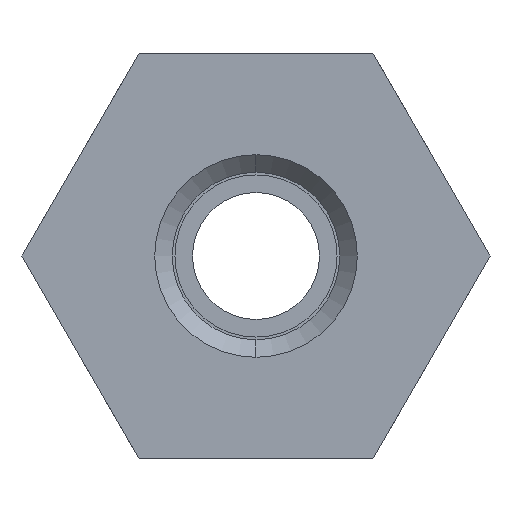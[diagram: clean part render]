
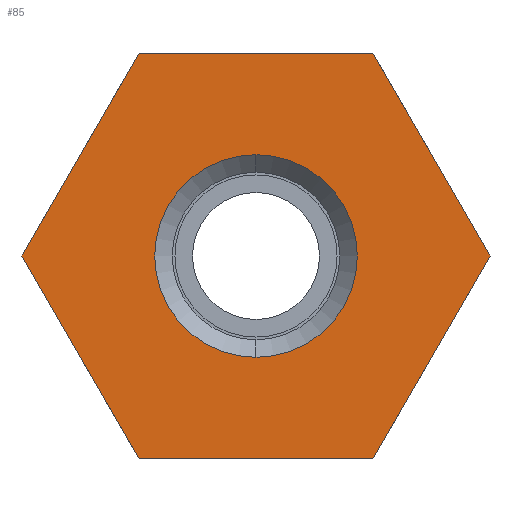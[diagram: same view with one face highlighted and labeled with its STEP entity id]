
A CAD part, front view. The second image highlights one B-rep face of the part: STEP entity #85.
In plain terms, the highlighted planar face has unit normal (0, -1, 0).
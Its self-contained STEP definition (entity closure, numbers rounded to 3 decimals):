
#85=ADVANCED_FACE('',(#153,#119),#347,.T.);
#119=FACE_OUTER_BOUND('',#161,.F.);
#153=FACE_BOUND('',#160,.F.);
#160=EDGE_LOOP('',(#202,#203));
#161=EDGE_LOOP('',(#204,#205,#206,#207,#208,#209));
#202=ORIENTED_EDGE('',*,*,#438,.T.);
#203=ORIENTED_EDGE('',*,*,#439,.T.);
#204=ORIENTED_EDGE('',*,*,#445,.F.);
#205=ORIENTED_EDGE('',*,*,#444,.F.);
#206=ORIENTED_EDGE('',*,*,#443,.F.);
#207=ORIENTED_EDGE('',*,*,#442,.F.);
#208=ORIENTED_EDGE('',*,*,#441,.F.);
#209=ORIENTED_EDGE('',*,*,#440,.F.);
#347=PLANE('',#605);
#366=LINE('',#868,#400);
#367=LINE('',#869,#401);
#368=LINE('',#870,#402);
#369=LINE('',#871,#403);
#370=LINE('',#872,#404);
#371=LINE('',#873,#405);
#400=VECTOR('',#671,2.887);
#401=VECTOR('',#672,2.887);
#402=VECTOR('',#673,2.887);
#403=VECTOR('',#674,2.887);
#404=VECTOR('',#675,2.887);
#405=VECTOR('',#676,2.887);
#438=EDGE_CURVE('',#565,#564,#512,.T.);
#439=EDGE_CURVE('',#564,#565,#513,.T.);
#440=EDGE_CURVE('',#563,#562,#366,.T.);
#441=EDGE_CURVE('',#562,#561,#367,.T.);
#442=EDGE_CURVE('',#561,#560,#368,.T.);
#443=EDGE_CURVE('',#560,#559,#369,.T.);
#444=EDGE_CURVE('',#559,#558,#370,.T.);
#445=EDGE_CURVE('',#558,#563,#371,.T.);
#512=CIRCLE('',#592,1.25);
#513=CIRCLE('',#593,1.25);
#558=VERTEX_POINT('',#850);
#559=VERTEX_POINT('',#851);
#560=VERTEX_POINT('',#852);
#561=VERTEX_POINT('',#853);
#562=VERTEX_POINT('',#854);
#563=VERTEX_POINT('',#855);
#564=VERTEX_POINT('',#856);
#565=VERTEX_POINT('',#857);
#592=AXIS2_PLACEMENT_3D('',#866,#667,#668);
#593=AXIS2_PLACEMENT_3D('',#867,#669,#670);
#605=AXIS2_PLACEMENT_3D('',#953,#715,#716);
#667=DIRECTION('',(0.,-1.,0.));
#668=DIRECTION('',(0.,0.,1.));
#669=DIRECTION('',(0.,-1.,0.));
#670=DIRECTION('',(0.,0.,-1.));
#671=DIRECTION('',(0.5,0.,0.866));
#672=DIRECTION('',(-0.5,0.,0.866));
#673=DIRECTION('',(-1.,0.,0.));
#674=DIRECTION('',(-0.5,0.,-0.866));
#675=DIRECTION('',(0.5,0.,-0.866));
#676=DIRECTION('',(1.,0.,0.));
#715=DIRECTION('',(0.,-1.,0.));
#716=DIRECTION('',(-1.,0.,0.));
#850=CARTESIAN_POINT('',(19.181,-18.196,18.705));
#851=CARTESIAN_POINT('',(17.738,-18.196,21.205));
#852=CARTESIAN_POINT('',(19.181,-18.196,23.705));
#853=CARTESIAN_POINT('',(22.068,-18.196,23.705));
#854=CARTESIAN_POINT('',(23.511,-18.196,21.205));
#855=CARTESIAN_POINT('',(22.068,-18.196,18.705));
#856=CARTESIAN_POINT('',(20.624,-18.196,19.955));
#857=CARTESIAN_POINT('',(20.624,-18.196,22.455));
#866=CARTESIAN_POINT('',(20.624,-18.196,21.205));
#867=CARTESIAN_POINT('',(20.624,-18.196,21.205));
#868=CARTESIAN_POINT('',(22.068,-18.196,18.705));
#869=CARTESIAN_POINT('',(23.511,-18.196,21.205));
#870=CARTESIAN_POINT('',(22.068,-18.196,23.705));
#871=CARTESIAN_POINT('',(19.181,-18.196,23.705));
#872=CARTESIAN_POINT('',(17.738,-18.196,21.205));
#873=CARTESIAN_POINT('',(19.181,-18.196,18.705));
#953=CARTESIAN_POINT('',(23.569,-18.196,23.763));
